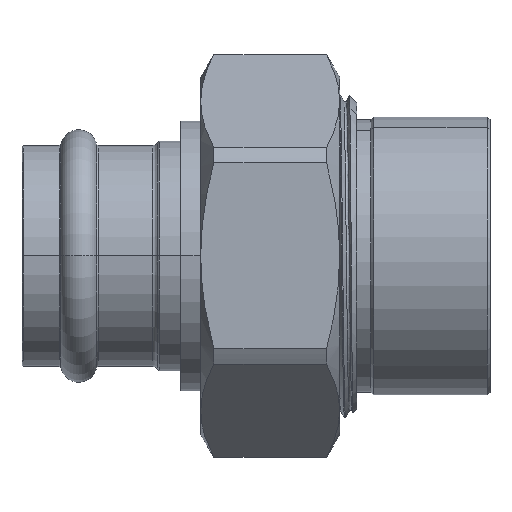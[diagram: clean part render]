
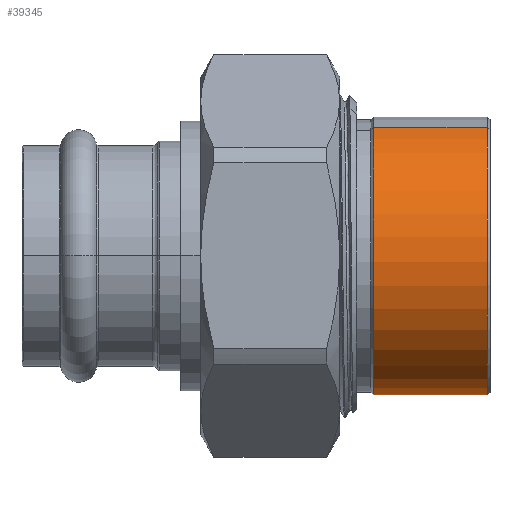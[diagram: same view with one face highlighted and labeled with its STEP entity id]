
A CAD part, top view. The second image highlights one B-rep face of the part: STEP entity #39345.
In plain terms, the highlighted cylindrical face has radius 0.965 mm (diameter 1.931 mm), a partial arc.
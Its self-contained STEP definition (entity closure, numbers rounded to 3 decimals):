
#14184 = VERTEX_POINT('',#14185);
#14185 = CARTESIAN_POINT('',(-29.057,0.892,
    -18.171));
#14199 = CONICAL_SURFACE('',#14200,0.965,0.785);
#14200 = AXIS2_PLACEMENT_3D('',#14201,#14202,#14203);
#14201 = CARTESIAN_POINT('',(-29.057,0.,-18.54));
#14202 = DIRECTION('',(1.,0.,0.));
#14203 = DIRECTION('',(0.,-0.924,-0.382));
#14212 = VERTEX_POINT('',#14213);
#14213 = CARTESIAN_POINT('',(-29.057,-0.892,
    -18.908));
#14228 = CYLINDRICAL_SURFACE('',#14229,0.965);
#14229 = AXIS2_PLACEMENT_3D('',#14230,#14231,#14232);
#14230 = CARTESIAN_POINT('',(-28.249,0.,-18.54));
#14231 = DIRECTION('',(-1.,0.,0.));
#14232 = DIRECTION('',(0.,0.924,0.382));
#14301 = VERTEX_POINT('',#14302);
#14302 = CARTESIAN_POINT('',(-28.269,-0.892,
    -18.908));
#14316 = CONICAL_SURFACE('',#14317,0.946,0.785);
#14317 = AXIS2_PLACEMENT_3D('',#14318,#14319,#14320);
#14318 = CARTESIAN_POINT('',(-28.249,0.,-18.54));
#14319 = DIRECTION('',(-1.,0.,0.));
#14320 = DIRECTION('',(0.,0.924,0.382));
#14329 = VERTEX_POINT('',#14330);
#14330 = CARTESIAN_POINT('',(-28.269,0.892,
    -18.171));
#14377 = EDGE_CURVE('',#14301,#14212,#14378,.T.);
#14378 = SURFACE_CURVE('',#14379,(#14383,#14390),.PCURVE_S1.);
#14379 = LINE('',#14380,#14381);
#14380 = CARTESIAN_POINT('',(-28.249,-0.892,
    -18.908));
#14381 = VECTOR('',#14382,1.);
#14382 = DIRECTION('',(-1.,0.,0.));
#14383 = PCURVE('',#14228,#14384);
#14384 = DEFINITIONAL_REPRESENTATION('',(#14385),#14389);
#14385 = LINE('',#14386,#14387);
#14386 = CARTESIAN_POINT('',(3.142,0.));
#14387 = VECTOR('',#14388,1.);
#14388 = DIRECTION('',(0.,1.));
#14389 = ( GEOMETRIC_REPRESENTATION_CONTEXT(2) 
PARAMETRIC_REPRESENTATION_CONTEXT() REPRESENTATION_CONTEXT('2D SPACE',''
  ) );
#14390 = PCURVE('',#14391,#14396);
#14391 = CYLINDRICAL_SURFACE('',#14392,0.965);
#14392 = AXIS2_PLACEMENT_3D('',#14393,#14394,#14395);
#14393 = CARTESIAN_POINT('',(-28.249,0.,-18.54));
#14394 = DIRECTION('',(-1.,0.,0.));
#14395 = DIRECTION('',(0.,0.924,0.382));
#14396 = DEFINITIONAL_REPRESENTATION('',(#14397),#14401);
#14397 = LINE('',#14398,#14399);
#14398 = CARTESIAN_POINT('',(3.142,0.));
#14399 = VECTOR('',#14400,1.);
#14400 = DIRECTION('',(0.,1.));
#14401 = ( GEOMETRIC_REPRESENTATION_CONTEXT(2) 
PARAMETRIC_REPRESENTATION_CONTEXT() REPRESENTATION_CONTEXT('2D SPACE',''
  ) );
#14404 = EDGE_CURVE('',#14329,#14184,#14405,.T.);
#14405 = SURFACE_CURVE('',#14406,(#14410,#14417),.PCURVE_S1.);
#14406 = LINE('',#14407,#14408);
#14407 = CARTESIAN_POINT('',(-28.249,0.892,
    -18.171));
#14408 = VECTOR('',#14409,1.);
#14409 = DIRECTION('',(-1.,0.,0.));
#14410 = PCURVE('',#14228,#14411);
#14411 = DEFINITIONAL_REPRESENTATION('',(#14412),#14416);
#14412 = LINE('',#14413,#14414);
#14413 = CARTESIAN_POINT('',(0.,0.));
#14414 = VECTOR('',#14415,1.);
#14415 = DIRECTION('',(0.,1.));
#14416 = ( GEOMETRIC_REPRESENTATION_CONTEXT(2) 
PARAMETRIC_REPRESENTATION_CONTEXT() REPRESENTATION_CONTEXT('2D SPACE',''
  ) );
#14417 = PCURVE('',#14391,#14418);
#14418 = DEFINITIONAL_REPRESENTATION('',(#14419),#14423);
#14419 = LINE('',#14420,#14421);
#14420 = CARTESIAN_POINT('',(6.283,0.));
#14421 = VECTOR('',#14422,1.);
#14422 = DIRECTION('',(0.,1.));
#14423 = ( GEOMETRIC_REPRESENTATION_CONTEXT(2) 
PARAMETRIC_REPRESENTATION_CONTEXT() REPRESENTATION_CONTEXT('2D SPACE',''
  ) );
#39345 = ADVANCED_FACE('',(#39346),#14391,.T.);
#39346 = FACE_BOUND('',#39347,.T.);
#39347 = EDGE_LOOP('',(#39348,#39349,#39371,#39372));
#39348 = ORIENTED_EDGE('',*,*,#14377,.F.);
#39349 = ORIENTED_EDGE('',*,*,#39350,.T.);
#39350 = EDGE_CURVE('',#14301,#14329,#39351,.T.);
#39351 = SURFACE_CURVE('',#39352,(#39357,#39364),.PCURVE_S1.);
#39352 = CIRCLE('',#39353,0.965);
#39353 = AXIS2_PLACEMENT_3D('',#39354,#39355,#39356);
#39354 = CARTESIAN_POINT('',(-28.269,0.,-18.54));
#39355 = DIRECTION('',(-1.,0.,0.));
#39356 = DIRECTION('',(-0.,-0.924,-0.382));
#39357 = PCURVE('',#14391,#39358);
#39358 = DEFINITIONAL_REPRESENTATION('',(#39359),#39363);
#39359 = LINE('',#39360,#39361);
#39360 = CARTESIAN_POINT('',(3.142,0.02));
#39361 = VECTOR('',#39362,1.);
#39362 = DIRECTION('',(1.,0.));
#39363 = ( GEOMETRIC_REPRESENTATION_CONTEXT(2) 
PARAMETRIC_REPRESENTATION_CONTEXT() REPRESENTATION_CONTEXT('2D SPACE',''
  ) );
#39364 = PCURVE('',#14316,#39365);
#39365 = DEFINITIONAL_REPRESENTATION('',(#39366),#39370);
#39366 = LINE('',#39367,#39368);
#39367 = CARTESIAN_POINT('',(3.142,0.02));
#39368 = VECTOR('',#39369,1.);
#39369 = DIRECTION('',(1.,0.));
#39370 = ( GEOMETRIC_REPRESENTATION_CONTEXT(2) 
PARAMETRIC_REPRESENTATION_CONTEXT() REPRESENTATION_CONTEXT('2D SPACE',''
  ) );
#39371 = ORIENTED_EDGE('',*,*,#14404,.T.);
#39372 = ORIENTED_EDGE('',*,*,#39373,.T.);
#39373 = EDGE_CURVE('',#14184,#14212,#39374,.T.);
#39374 = SURFACE_CURVE('',#39375,(#39380,#39387),.PCURVE_S1.);
#39375 = CIRCLE('',#39376,0.965);
#39376 = AXIS2_PLACEMENT_3D('',#39377,#39378,#39379);
#39377 = CARTESIAN_POINT('',(-29.057,0.,-18.54));
#39378 = DIRECTION('',(1.,0.,0.));
#39379 = DIRECTION('',(0.,-0.924,-0.382));
#39380 = PCURVE('',#14391,#39381);
#39381 = DEFINITIONAL_REPRESENTATION('',(#39382),#39386);
#39382 = LINE('',#39383,#39384);
#39383 = CARTESIAN_POINT('',(9.425,0.808));
#39384 = VECTOR('',#39385,1.);
#39385 = DIRECTION('',(-1.,0.));
#39386 = ( GEOMETRIC_REPRESENTATION_CONTEXT(2) 
PARAMETRIC_REPRESENTATION_CONTEXT() REPRESENTATION_CONTEXT('2D SPACE',''
  ) );
#39387 = PCURVE('',#14199,#39388);
#39388 = DEFINITIONAL_REPRESENTATION('',(#39389),#39393);
#39389 = LINE('',#39390,#39391);
#39390 = CARTESIAN_POINT('',(0.,0.));
#39391 = VECTOR('',#39392,1.);
#39392 = DIRECTION('',(1.,0.));
#39393 = ( GEOMETRIC_REPRESENTATION_CONTEXT(2) 
PARAMETRIC_REPRESENTATION_CONTEXT() REPRESENTATION_CONTEXT('2D SPACE',''
  ) );
